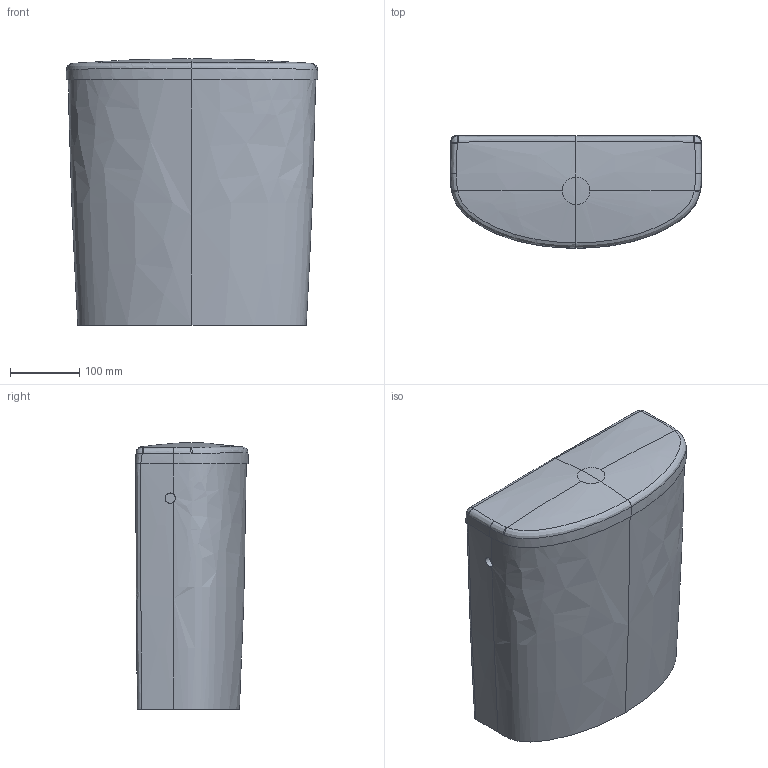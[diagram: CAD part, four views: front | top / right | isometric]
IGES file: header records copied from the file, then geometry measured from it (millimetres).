
Global section: file name: 500269; native system: Autodesk Inventor 2018; preprocessor: unknown; author: seihe2; date: 20200527.082540; units: millimetre
Bounding box: 364 x 163 x 385.35 mm (x, y, z)
Volume: 17880078.6 mm3; surface area: 432558.6 mm2
Topology: 1 solids, 1 shells, 48 faces, 115 edges, 67 vertices
Faces by surface type: bspline 48
